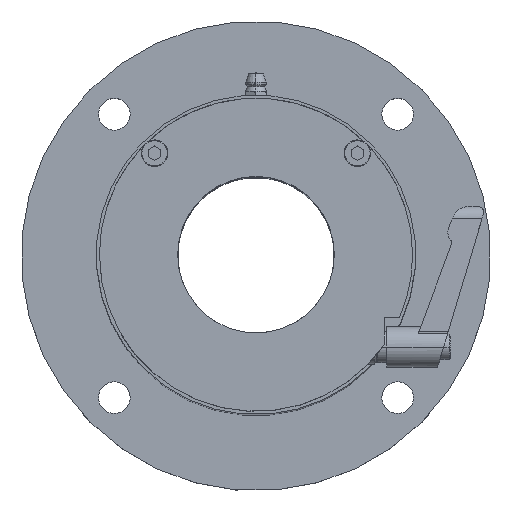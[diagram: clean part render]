
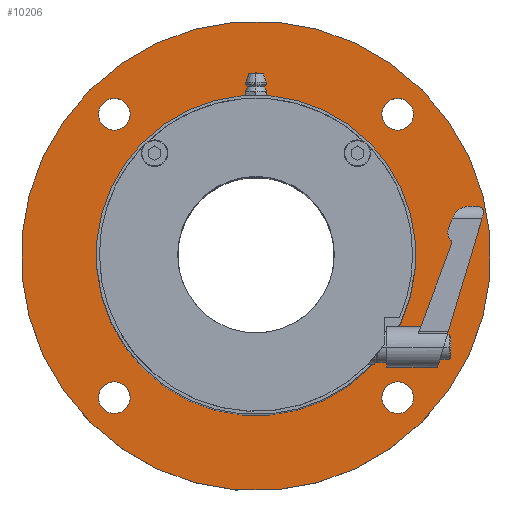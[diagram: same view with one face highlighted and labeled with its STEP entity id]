
A CAD part, top view. The second image highlights one B-rep face of the part: STEP entity #10206.
In plain terms, the highlighted planar face has unit normal (0, 0, 1).
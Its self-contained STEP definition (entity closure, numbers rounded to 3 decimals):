
#112 = DIRECTION ( 'NONE',  ( 0., 0., -1. ) ) ;
#263 = ORIENTED_EDGE ( 'NONE', *, *, #3509, .T. ) ;
#406 = FACE_BOUND ( 'NONE', #5362, .T. ) ;
#441 = CIRCLE ( 'NONE', #8897, 75. ) ;
#451 = DIRECTION ( 'NONE',  ( 0.707, -0.707, 0. ) ) ;
#488 = EDGE_CURVE ( 'NONE', #7088, #9100, #7324, .T. ) ;
#502 = DIRECTION ( 'NONE',  ( 0.707, 0.707, 0. ) ) ;
#511 = ORIENTED_EDGE ( 'NONE', *, *, #2730, .T. ) ;
#543 = DIRECTION ( 'NONE',  ( 0., 0., -1. ) ) ;
#545 = VERTEX_POINT ( 'NONE', #7149 ) ;
#618 = VERTEX_POINT ( 'NONE', #2542 ) ;
#758 = DIRECTION ( 'NONE',  ( 0.707, 0.707, 0. ) ) ;
#871 = ORIENTED_EDGE ( 'NONE', *, *, #488, .T. ) ;
#956 = VERTEX_POINT ( 'NONE', #8553 ) ;
#1036 = CARTESIAN_POINT ( 'NONE',  ( -51.518, -57.376, 127. ) ) ;
#1080 = DIRECTION ( 'NONE',  ( 0., 0., 1. ) ) ;
#1084 = DIRECTION ( 'NONE',  ( 0.707, 0.707, 0. ) ) ;
#1087 = CARTESIAN_POINT ( 'NONE',  ( -55.091, -53.803, 127. ) ) ;
#1126 = DIRECTION ( 'NONE',  ( 0.707, 0.707, 0. ) ) ;
#1171 = CIRCLE ( 'NONE', #5174, 5.053 ) ;
#1182 = ORIENTED_EDGE ( 'NONE', *, *, #5962, .F. ) ;
#1354 = DIRECTION ( 'NONE',  ( 0., 0., -1. ) ) ;
#1433 = VERTEX_POINT ( 'NONE', #8734 ) ;
#1555 = CARTESIAN_POINT ( 'NONE',  ( -9.836, -8.548, 127. ) ) ;
#1707 = EDGE_CURVE ( 'NONE', #4618, #545, #1171, .T. ) ;
#1797 = AXIS2_PLACEMENT_3D ( 'NONE', #1087, #5901, #6822 ) ;
#1810 = VERTEX_POINT ( 'NONE', #9172 ) ;
#1931 = CIRCLE ( 'NONE', #5945, 51. ) ;
#1949 = DIRECTION ( 'NONE',  ( 0., 0., -1. ) ) ;
#1988 = AXIS2_PLACEMENT_3D ( 'NONE', #3358, #6655, #1126 ) ;
#2387 = CARTESIAN_POINT ( 'NONE',  ( 38.991, -50.23, 127. ) ) ;
#2394 = DIRECTION ( 'NONE',  ( 0., 0., -1. ) ) ;
#2462 = EDGE_CURVE ( 'NONE', #3386, #956, #4818, .T. ) ;
#2525 = FACE_BOUND ( 'NONE', #2871, .T. ) ;
#2542 = CARTESIAN_POINT ( 'NONE',  ( 31.845, 40.28, 127. ) ) ;
#2730 = EDGE_CURVE ( 'NONE', #956, #3386, #1931, .T. ) ;
#2731 = EDGE_LOOP ( 'NONE', ( #5627, #2753 ) ) ;
#2753 = ORIENTED_EDGE ( 'NONE', *, *, #1707, .T. ) ;
#2871 = EDGE_LOOP ( 'NONE', ( #4220, #511 ) ) ;
#2958 = EDGE_CURVE ( 'NONE', #1433, #7340, #441, .T. ) ;
#2965 = AXIS2_PLACEMENT_3D ( 'NONE', #7331, #8908, #3395 ) ;
#3358 = CARTESIAN_POINT ( 'NONE',  ( -55.091, 36.706, 127. ) ) ;
#3386 = VERTEX_POINT ( 'NONE', #7551 ) ;
#3395 = DIRECTION ( 'NONE',  ( -0.707, -0.707, 0. ) ) ;
#3429 = AXIS2_PLACEMENT_3D ( 'NONE', #6424, #2394, #8737 ) ;
#3501 = CARTESIAN_POINT ( 'NONE',  ( -9.836, -8.548, 127. ) ) ;
#3509 = EDGE_CURVE ( 'NONE', #1810, #618, #8916, .T. ) ;
#3567 = EDGE_LOOP ( 'NONE', ( #6529, #8233 ) ) ;
#3925 = EDGE_CURVE ( 'NONE', #9100, #7088, #4298, .T. ) ;
#4112 = DIRECTION ( 'NONE',  ( 0., 0., -1. ) ) ;
#4220 = ORIENTED_EDGE ( 'NONE', *, *, #2462, .T. ) ;
#4257 = CARTESIAN_POINT ( 'NONE',  ( -9.836, -8.548, 127. ) ) ;
#4285 = ORIENTED_EDGE ( 'NONE', *, *, #3925, .T. ) ;
#4298 = CIRCLE ( 'NONE', #2965, 5.053 ) ;
#4499 = DIRECTION ( 'NONE',  ( -0.707, -0.707, 0. ) ) ;
#4618 = VERTEX_POINT ( 'NONE', #9240 ) ;
#4818 = CIRCLE ( 'NONE', #9938, 51. ) ;
#4980 = CARTESIAN_POINT ( 'NONE',  ( 43.197, 44.485, 127. ) ) ;
#4993 = CARTESIAN_POINT ( 'NONE',  ( -55.091, 36.706, 127. ) ) ;
#5041 = FACE_OUTER_BOUND ( 'NONE', #7000, .T. ) ;
#5080 = FACE_BOUND ( 'NONE', #2731, .T. ) ;
#5174 = AXIS2_PLACEMENT_3D ( 'NONE', #4993, #4112, #8875 ) ;
#5180 = VERTEX_POINT ( 'NONE', #6956 ) ;
#5362 = EDGE_LOOP ( 'NONE', ( #263, #8942 ) ) ;
#5497 = AXIS2_PLACEMENT_3D ( 'NONE', #3501, #112, #9850 ) ;
#5627 = ORIENTED_EDGE ( 'NONE', *, *, #9428, .T. ) ;
#5637 = AXIS2_PLACEMENT_3D ( 'NONE', #8474, #1354, #10189 ) ;
#5649 = DIRECTION ( 'NONE',  ( -0.707, 0.707, 0. ) ) ;
#5677 = AXIS2_PLACEMENT_3D ( 'NONE', #10002, #543, #4499 ) ;
#5711 = EDGE_CURVE ( 'NONE', #5180, #8594, #8340, .T. ) ;
#5901 = DIRECTION ( 'NONE',  ( 0., 0., -1. ) ) ;
#5945 = AXIS2_PLACEMENT_3D ( 'NONE', #1555, #8564, #758 ) ;
#5962 = EDGE_CURVE ( 'NONE', #7340, #1433, #7633, .T. ) ;
#6211 = AXIS2_PLACEMENT_3D ( 'NONE', #9628, #7398, #5649 ) ;
#6424 = CARTESIAN_POINT ( 'NONE',  ( 35.418, 36.706, 127. ) ) ;
#6529 = ORIENTED_EDGE ( 'NONE', *, *, #5711, .T. ) ;
#6655 = DIRECTION ( 'NONE',  ( 0., 0., -1. ) ) ;
#6661 = FACE_BOUND ( 'NONE', #8423, .T. ) ;
#6698 = CARTESIAN_POINT ( 'NONE',  ( -9.836, -8.548, 127. ) ) ;
#6708 = DIRECTION ( 'NONE',  ( 0., 0., -1. ) ) ;
#6822 = DIRECTION ( 'NONE',  ( -0.707, 0.707, 0. ) ) ;
#6956 = CARTESIAN_POINT ( 'NONE',  ( -58.664, -50.23, 127. ) ) ;
#7000 = EDGE_LOOP ( 'NONE', ( #1182, #9542 ) ) ;
#7041 = EDGE_CURVE ( 'NONE', #8594, #5180, #9079, .T. ) ;
#7085 = EDGE_CURVE ( 'NONE', #618, #1810, #8769, .T. ) ;
#7088 = VERTEX_POINT ( 'NONE', #8525 ) ;
#7149 = CARTESIAN_POINT ( 'NONE',  ( -51.518, 40.28, 127. ) ) ;
#7324 = CIRCLE ( 'NONE', #5677, 5.053 ) ;
#7331 = CARTESIAN_POINT ( 'NONE',  ( 35.418, -53.803, 127. ) ) ;
#7340 = VERTEX_POINT ( 'NONE', #4980 ) ;
#7398 = DIRECTION ( 'NONE',  ( 0., 0., -1. ) ) ;
#7551 = CARTESIAN_POINT ( 'NONE',  ( 26.226, 27.514, 127. ) ) ;
#7633 = CIRCLE ( 'NONE', #5497, 75. ) ;
#8108 = FACE_BOUND ( 'NONE', #3567, .T. ) ;
#8212 = CARTESIAN_POINT ( 'NONE',  ( 34.711, 35.999, 127. ) ) ;
#8233 = ORIENTED_EDGE ( 'NONE', *, *, #7041, .T. ) ;
#8311 = PLANE ( 'NONE',  #9992 ) ;
#8340 = CIRCLE ( 'NONE', #6211, 5.053 ) ;
#8423 = EDGE_LOOP ( 'NONE', ( #871, #4285 ) ) ;
#8474 = CARTESIAN_POINT ( 'NONE',  ( 35.418, 36.706, 127. ) ) ;
#8525 = CARTESIAN_POINT ( 'NONE',  ( 31.845, -57.376, 127. ) ) ;
#8553 = CARTESIAN_POINT ( 'NONE',  ( -45.899, -44.611, 127. ) ) ;
#8564 = DIRECTION ( 'NONE',  ( 0., 0., -1. ) ) ;
#8594 = VERTEX_POINT ( 'NONE', #1036 ) ;
#8734 = CARTESIAN_POINT ( 'NONE',  ( -62.869, -61.581, 127. ) ) ;
#8737 = DIRECTION ( 'NONE',  ( 0.707, -0.707, 0. ) ) ;
#8769 = CIRCLE ( 'NONE', #5637, 5.053 ) ;
#8875 = DIRECTION ( 'NONE',  ( 0.707, 0.707, 0. ) ) ;
#8897 = AXIS2_PLACEMENT_3D ( 'NONE', #6698, #1949, #502 ) ;
#8908 = DIRECTION ( 'NONE',  ( 0., 0., -1. ) ) ;
#8916 = CIRCLE ( 'NONE', #3429, 5.053 ) ;
#8942 = ORIENTED_EDGE ( 'NONE', *, *, #7085, .T. ) ;
#9079 = CIRCLE ( 'NONE', #1797, 5.053 ) ;
#9100 = VERTEX_POINT ( 'NONE', #2387 ) ;
#9172 = CARTESIAN_POINT ( 'NONE',  ( 38.991, 33.133, 127. ) ) ;
#9240 = CARTESIAN_POINT ( 'NONE',  ( -58.664, 33.133, 127. ) ) ;
#9428 = EDGE_CURVE ( 'NONE', #545, #4618, #9960, .T. ) ;
#9542 = ORIENTED_EDGE ( 'NONE', *, *, #2958, .F. ) ;
#9628 = CARTESIAN_POINT ( 'NONE',  ( -55.091, -53.803, 127. ) ) ;
#9850 = DIRECTION ( 'NONE',  ( 0.707, 0.707, 0. ) ) ;
#9938 = AXIS2_PLACEMENT_3D ( 'NONE', #4257, #6708, #1084 ) ;
#9960 = CIRCLE ( 'NONE', #1988, 5.053 ) ;
#9992 = AXIS2_PLACEMENT_3D ( 'NONE', #8212, #1080, #451 ) ;
#10002 = CARTESIAN_POINT ( 'NONE',  ( 35.418, -53.803, 127. ) ) ;
#10189 = DIRECTION ( 'NONE',  ( 0.707, -0.707, 0. ) ) ;
#10206 = ADVANCED_FACE ( 'NONE', ( #5041, #6661, #8108, #5080, #406, #2525 ), #8311, .T. ) ;
